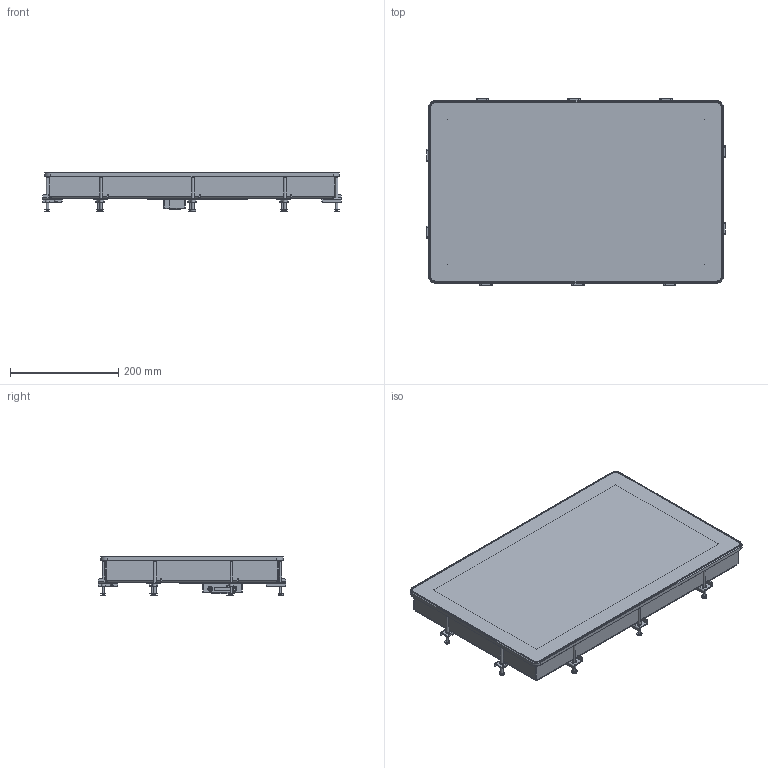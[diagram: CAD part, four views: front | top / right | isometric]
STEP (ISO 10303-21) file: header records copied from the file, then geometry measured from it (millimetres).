
FILE_DESCRIPTION(/* description */ (''),/* implementation_level */ '2;1');
FILE_NAME(/* name */ 'D:\Modelle vereinfacht\notion.D\778-42999\778-42999_EXTERN.stp',/* time_stamp */ '2021-11-25T15:20:19+01:00',/* author */ ('Blessing'),/* organization */ (''),/* preprocessor_version */ 'ST-DEVELOPER v18.1',/* originating_system */ 'Autodesk Inventor 2020',/* authorisation */ '');
FILE_SCHEMA (('AUTOMOTIVE_DESIGN { 1 0 10303 214 3 1 1 }'));
Products named in the file (4): 778-42999_EXTERN; 778-42999; 778-90058-02; 778-90106_Kunde
Assembly tree (3 placements, depth 2):
  778-42999_EXTERN
    778-42999
    778-90058-02
    778-90106_Kunde
Bounding box: 553 x 346 x 73.9 mm (x, y, z)
Volume: 7356203.5 mm3; surface area: 1204524.5 mm2
Topology: 15 solids, 56 shells, 8328 faces, 22490 edges, 14844 vertices
Faces by surface type: plane 4690, cylinder 1612, bspline 1458, cone 518, sphere 29, torus 21
Full cylindrical faces by diameter (mm): 0.457 x1, 2.459 x10, 2.5 x2, 2.8 x2, 2.91 x2, 3 x20, 3.242 x10, 3.5 x20, 4 x22, 4.22 x10, 4.3 x20, 4.5 x8, 4.7 x2, 4.917 x4, 4.96 x2, 5 x29, 5.2 x5, 5.3 x1, 5.38 x12, 5.4 x12, 5.5 x2, 5.54 x16, 5.7 x14, 5.8 x2, 6 x7, 6.3 x4, 6.6 x10, 7 x12, 7.11 x10, 7.2 x10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
Entity records: 288811 total; most frequent: CARTESIAN_POINT 83078, ORIENTED_EDGE 44894, DIRECTION 35148, EDGE_CURVE 22447, VERTEX_POINT 14844, LINE 14326, VECTOR 14326, AXIS2_PLACEMENT_3D 10411
